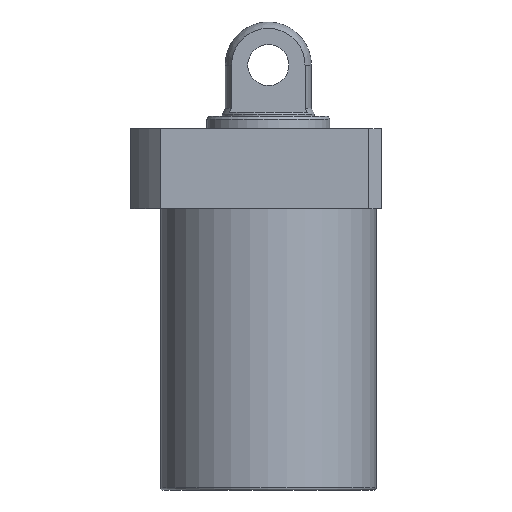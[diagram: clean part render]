
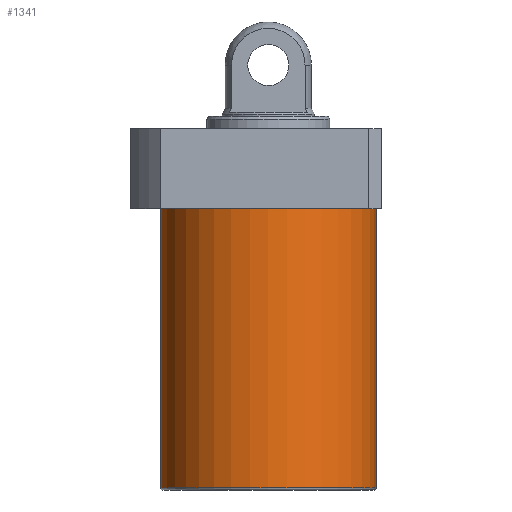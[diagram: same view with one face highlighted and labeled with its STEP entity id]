
A CAD part, front view. The second image highlights one B-rep face of the part: STEP entity #1341.
In plain terms, the highlighted cylindrical face has radius 52.5 mm (diameter 105 mm), a partial arc.
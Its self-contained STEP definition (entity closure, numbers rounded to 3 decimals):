
#28 = EDGE_LOOP ( 'NONE', ( #530, #677, #1598, #41 ) ) ;
#41 = ORIENTED_EDGE ( 'NONE', *, *, #1637, .T. ) ;
#136 = CARTESIAN_POINT ( 'NONE',  ( 52.5, 0., -155.5 ) ) ;
#171 = VECTOR ( 'NONE', #362, 1000. ) ;
#181 = CARTESIAN_POINT ( 'NONE',  ( 52.5, 0., -156.5 ) ) ;
#219 = AXIS2_PLACEMENT_3D ( 'NONE', #325, #463, #1567 ) ;
#275 = DIRECTION ( 'NONE',  ( 1., 0., 0. ) ) ;
#289 = VECTOR ( 'NONE', #1593, 1000. ) ;
#325 = CARTESIAN_POINT ( 'NONE',  ( 0., 0., -156.5 ) ) ;
#362 = DIRECTION ( 'NONE',  ( 0., 0., 1. ) ) ;
#374 = DIRECTION ( 'NONE',  ( 0., 0., 1. ) ) ;
#463 = DIRECTION ( 'NONE',  ( 0., 0., 1. ) ) ;
#530 = ORIENTED_EDGE ( 'NONE', *, *, #1117, .F. ) ;
#599 = LINE ( 'NONE', #181, #289 ) ;
#677 = ORIENTED_EDGE ( 'NONE', *, *, #1485, .T. ) ;
#713 = LINE ( 'NONE', #804, #171 ) ;
#804 = CARTESIAN_POINT ( 'NONE',  ( -52.5, 0., -156.5 ) ) ;
#806 = CARTESIAN_POINT ( 'NONE',  ( 0., 0., -155.5 ) ) ;
#867 = CIRCLE ( 'NONE', #1273, 52.5 ) ;
#1117 = EDGE_CURVE ( 'NONE', #1488, #1466, #713, .T. ) ;
#1155 = FACE_OUTER_BOUND ( 'NONE', #28, .T. ) ;
#1256 = CARTESIAN_POINT ( 'NONE',  ( 0., 0., -19.5 ) ) ;
#1273 = AXIS2_PLACEMENT_3D ( 'NONE', #1256, #1798, #275 ) ;
#1289 = EDGE_CURVE ( 'NONE', #1805, #1718, #599, .T. ) ;
#1341 = ADVANCED_FACE ( 'NONE', ( #1155 ), #1377, .T. ) ;
#1353 = CARTESIAN_POINT ( 'NONE',  ( -52.5, 0., -19.5 ) ) ;
#1377 = CYLINDRICAL_SURFACE ( 'NONE', #219, 52.5 ) ;
#1466 = VERTEX_POINT ( 'NONE', #1353 ) ;
#1471 = AXIS2_PLACEMENT_3D ( 'NONE', #806, #374, #1514 ) ;
#1485 = EDGE_CURVE ( 'NONE', #1488, #1805, #1675, .T. ) ;
#1488 = VERTEX_POINT ( 'NONE', #1760 ) ;
#1514 = DIRECTION ( 'NONE',  ( -1., 0., 0. ) ) ;
#1543 = CARTESIAN_POINT ( 'NONE',  ( 52.5, 0., -19.5 ) ) ;
#1567 = DIRECTION ( 'NONE',  ( 1., 0., 0. ) ) ;
#1593 = DIRECTION ( 'NONE',  ( 0., 0., 1. ) ) ;
#1598 = ORIENTED_EDGE ( 'NONE', *, *, #1289, .T. ) ;
#1637 = EDGE_CURVE ( 'NONE', #1718, #1466, #867, .T. ) ;
#1675 = CIRCLE ( 'NONE', #1471, 52.5 ) ;
#1718 = VERTEX_POINT ( 'NONE', #1543 ) ;
#1760 = CARTESIAN_POINT ( 'NONE',  ( -52.5, 0., -155.5 ) ) ;
#1798 = DIRECTION ( 'NONE',  ( 0., 0., -1. ) ) ;
#1805 = VERTEX_POINT ( 'NONE', #136 ) ;
